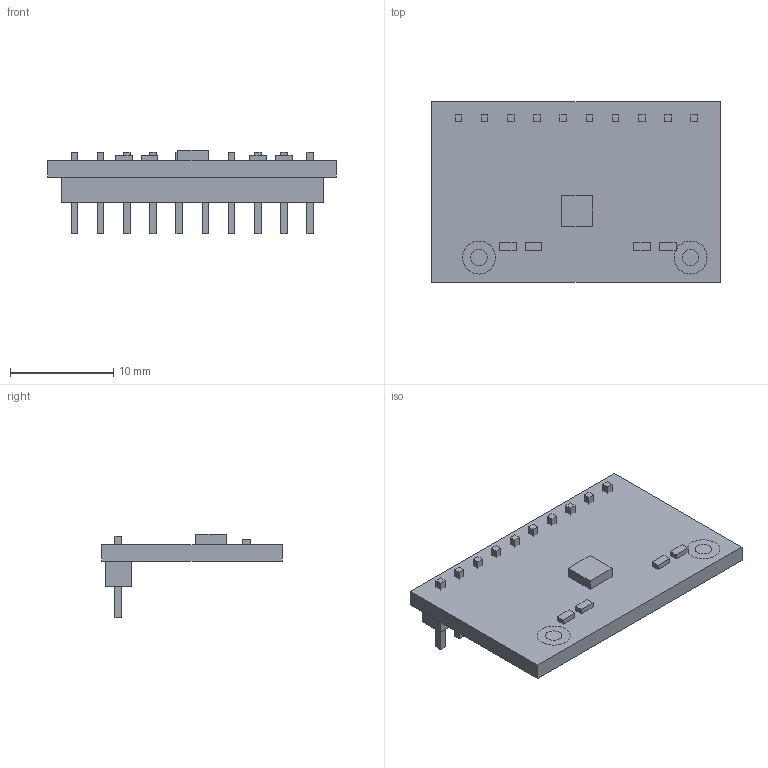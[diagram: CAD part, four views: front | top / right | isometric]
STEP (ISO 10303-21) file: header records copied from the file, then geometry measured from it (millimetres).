
FILE_DESCRIPTION(('Open CASCADE Model'),'2;1');
FILE_NAME('Open CASCADE Shape Model','2026-10-08T02:56:02',('Author'),( 'Open CASCADE'),'Open CASCADE STEP processor 7.9','Open CASCADE 7.9' ,'Unknown');
FILE_SCHEMA(('AUTOMOTIVE_DESIGN { 1 0 10303 214 1 1 1 1 }'));
Length unit declared in the file: millimetre
Products named in the file (11): GY-ADS1115; pcb; b284c512-c295-11f1-a966-02fc00000001; b296771c-c295-11f1-a966-02fc00000001; ads1115; b29729aa-c295-11f1-a966-02fc00000001; b2978256-c295-11f1-a966-02fc00000001; b297d7ce-c295-11f1-a966-02fc00000001; b2983386-c295-11f1-a966-02fc00000001; b2992764-c295-11f1-a966-02fc00000001; b299d290-c295-11f1-a966-02fc00000001
Assembly tree (10 placements, depth 2):
  GY-ADS1115
    pcb
    b284c512-c295-11f1-a966-02fc00000001
    b296771c-c295-11f1-a966-02fc00000001
    ads1115
    b29729aa-c295-11f1-a966-02fc00000001
    b2978256-c295-11f1-a966-02fc00000001
    b297d7ce-c295-11f1-a966-02fc00000001
    b2983386-c295-11f1-a966-02fc00000001
    b2992764-c295-11f1-a966-02fc00000001
    b299d290-c295-11f1-a966-02fc00000001
Bounding box: 28 x 17.5 x 8.1 mm (x, y, z)
Volume: 1008.5 mm3; surface area: 1727 mm2
Topology: 19 solids, 19 shells, 110 faces, 216 edges, 144 vertices
Faces by surface type: plane 106, cylinder 4
Full cylindrical faces by diameter (mm): 1.6 x2, 3.2 x2
Entity records: 5884 total; most frequent: CARTESIAN_POINT 913, DIRECTION 898, LINE 632, VECTOR 632, ORIENTED_EDGE 432, PCURVE 432, DEFINITIONAL_REPRESENTATION 432, EDGE_CURVE 216
